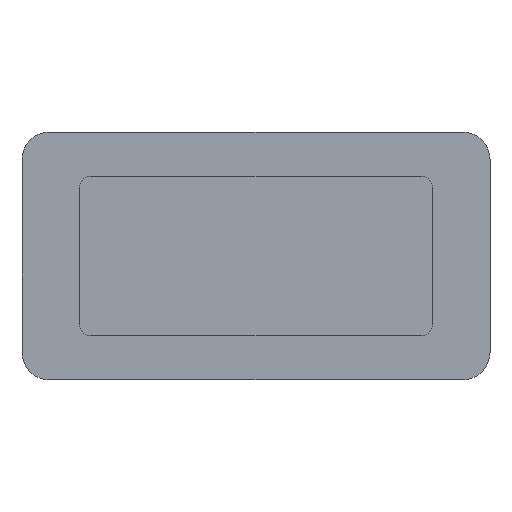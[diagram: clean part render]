
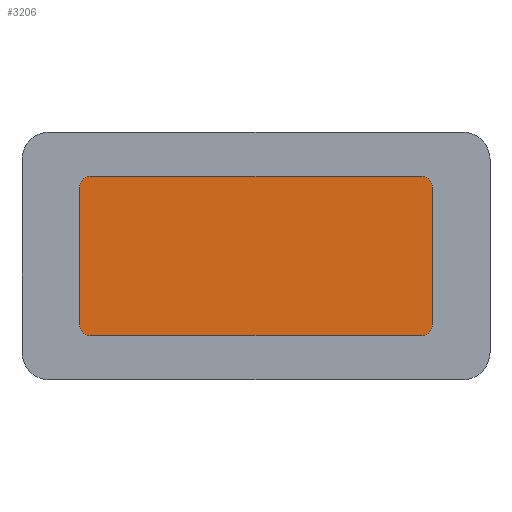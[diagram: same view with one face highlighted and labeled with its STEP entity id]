
A CAD part, top view. The second image highlights one B-rep face of the part: STEP entity #3206.
In plain terms, the highlighted planar face has unit normal (0, 0, 1).
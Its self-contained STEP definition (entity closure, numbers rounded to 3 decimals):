
#2601 = PLANE('',#2602);
#2602 = AXIS2_PLACEMENT_3D('',#2603,#2604,#2605);
#2603 = CARTESIAN_POINT('',(-13.8,-6.8,-0.1));
#2604 = DIRECTION('',(0.,1.,0.));
#2605 = DIRECTION('',(1.,0.,0.));
#2629 = CYLINDRICAL_SURFACE('',#2630,1.8);
#2630 = AXIS2_PLACEMENT_3D('',#2631,#2632,#2633);
#2631 = CARTESIAN_POINT('',(12.,-5.,-0.1));
#2632 = DIRECTION('',(0.,0.,1.));
#2633 = DIRECTION('',(0.,-1.,0.));
#2656 = PLANE('',#2657);
#2657 = AXIS2_PLACEMENT_3D('',#2658,#2659,#2660);
#2658 = CARTESIAN_POINT('',(13.8,-6.8,-0.1));
#2659 = DIRECTION('',(-1.,0.,0.));
#2660 = DIRECTION('',(0.,1.,0.));
#2684 = CYLINDRICAL_SURFACE('',#2685,1.8);
#2685 = AXIS2_PLACEMENT_3D('',#2686,#2687,#2688);
#2686 = CARTESIAN_POINT('',(12.,5.,-0.1));
#2687 = DIRECTION('',(0.,0.,1.));
#2688 = DIRECTION('',(1.,0.,-0.));
#2711 = PLANE('',#2712);
#2712 = AXIS2_PLACEMENT_3D('',#2713,#2714,#2715);
#2713 = CARTESIAN_POINT('',(13.8,6.8,-0.1));
#2714 = DIRECTION('',(0.,-1.,0.));
#2715 = DIRECTION('',(-1.,0.,0.));
#2739 = CYLINDRICAL_SURFACE('',#2740,1.8);
#2740 = AXIS2_PLACEMENT_3D('',#2741,#2742,#2743);
#2741 = CARTESIAN_POINT('',(-12.,5.,-0.1));
#2742 = DIRECTION('',(0.,0.,1.));
#2743 = DIRECTION('',(-0.,1.,0.));
#2766 = PLANE('',#2767);
#2767 = AXIS2_PLACEMENT_3D('',#2768,#2769,#2770);
#2768 = CARTESIAN_POINT('',(-13.8,6.8,-0.1));
#2769 = DIRECTION('',(1.,0.,-0.));
#2770 = DIRECTION('',(0.,-1.,0.));
#2792 = CYLINDRICAL_SURFACE('',#2793,1.8);
#2793 = AXIS2_PLACEMENT_3D('',#2794,#2795,#2796);
#2794 = CARTESIAN_POINT('',(-12.,-5.,-0.1));
#2795 = DIRECTION('',(0.,0.,1.));
#2796 = DIRECTION('',(0.,-1.,0.));
#2818 = VERTEX_POINT('',#2819);
#2819 = CARTESIAN_POINT('',(12.,-6.8,0.6));
#2840 = EDGE_CURVE('',#2818,#2841,#2843,.T.);
#2841 = VERTEX_POINT('',#2842);
#2842 = CARTESIAN_POINT('',(-12.,-6.8,0.6));
#2843 = SURFACE_CURVE('',#2844,(#2848,#2854),.PCURVE_S1.);
#2844 = LINE('',#2845,#2846);
#2845 = CARTESIAN_POINT('',(-6.9,-6.8,0.6));
#2846 = VECTOR('',#2847,1.);
#2847 = DIRECTION('',(-1.,0.,0.));
#2848 = PCURVE('',#2601,#2849);
#2849 = DEFINITIONAL_REPRESENTATION('',(#2850),#2853);
#2850 = B_SPLINE_CURVE_WITH_KNOTS('',1,(#2851,#2852),.UNSPECIFIED.,.F.,
  .F.,(2,2),(-18.9,5.1),.PIECEWISE_BEZIER_KNOTS.);
#2851 = CARTESIAN_POINT('',(25.8,-0.7));
#2852 = CARTESIAN_POINT('',(1.8,-0.7));
#2853 = ( GEOMETRIC_REPRESENTATION_CONTEXT(2) 
PARAMETRIC_REPRESENTATION_CONTEXT() REPRESENTATION_CONTEXT('2D SPACE',''
  ) );
#2854 = PCURVE('',#2855,#2860);
#2855 = PLANE('',#2856);
#2856 = AXIS2_PLACEMENT_3D('',#2857,#2858,#2859);
#2857 = CARTESIAN_POINT('',(0.,0.,0.6));
#2858 = DIRECTION('',(0.,0.,1.));
#2859 = DIRECTION('',(1.,0.,-0.));
#2860 = DEFINITIONAL_REPRESENTATION('',(#2861),#2864);
#2861 = B_SPLINE_CURVE_WITH_KNOTS('',1,(#2862,#2863),.UNSPECIFIED.,.F.,
  .F.,(2,2),(-18.9,5.1),.PIECEWISE_BEZIER_KNOTS.);
#2862 = CARTESIAN_POINT('',(12.,-6.8));
#2863 = CARTESIAN_POINT('',(-12.,-6.8));
#2864 = ( GEOMETRIC_REPRESENTATION_CONTEXT(2) 
PARAMETRIC_REPRESENTATION_CONTEXT() REPRESENTATION_CONTEXT('2D SPACE',''
  ) );
#2892 = EDGE_CURVE('',#2893,#2841,#2895,.T.);
#2893 = VERTEX_POINT('',#2894);
#2894 = CARTESIAN_POINT('',(-13.8,-5.,0.6));
#2895 = SURFACE_CURVE('',#2896,(#2901,#2908),.PCURVE_S1.);
#2896 = CIRCLE('',#2897,1.8);
#2897 = AXIS2_PLACEMENT_3D('',#2898,#2899,#2900);
#2898 = CARTESIAN_POINT('',(-12.,-5.,0.6));
#2899 = DIRECTION('',(0.,0.,1.));
#2900 = DIRECTION('',(0.,-1.,0.));
#2901 = PCURVE('',#2792,#2902);
#2902 = DEFINITIONAL_REPRESENTATION('',(#2903),#2907);
#2903 = LINE('',#2904,#2905);
#2904 = CARTESIAN_POINT('',(-6.283,0.7));
#2905 = VECTOR('',#2906,1.);
#2906 = DIRECTION('',(1.,-0.));
#2907 = ( GEOMETRIC_REPRESENTATION_CONTEXT(2) 
PARAMETRIC_REPRESENTATION_CONTEXT() REPRESENTATION_CONTEXT('2D SPACE',''
  ) );
#2908 = PCURVE('',#2855,#2909);
#2909 = DEFINITIONAL_REPRESENTATION('',(#2910),#2914);
#2910 = CIRCLE('',#2911,1.8);
#2911 = AXIS2_PLACEMENT_2D('',#2912,#2913);
#2912 = CARTESIAN_POINT('',(-12.,-5.));
#2913 = DIRECTION('',(0.,-1.));
#2914 = ( GEOMETRIC_REPRESENTATION_CONTEXT(2) 
PARAMETRIC_REPRESENTATION_CONTEXT() REPRESENTATION_CONTEXT('2D SPACE',''
  ) );
#2942 = EDGE_CURVE('',#2893,#2943,#2945,.T.);
#2943 = VERTEX_POINT('',#2944);
#2944 = CARTESIAN_POINT('',(-13.8,5.,0.6));
#2945 = SURFACE_CURVE('',#2946,(#2950,#2956),.PCURVE_S1.);
#2946 = LINE('',#2947,#2948);
#2947 = CARTESIAN_POINT('',(-13.8,3.4,0.6));
#2948 = VECTOR('',#2949,1.);
#2949 = DIRECTION('',(-0.,1.,0.));
#2950 = PCURVE('',#2766,#2951);
#2951 = DEFINITIONAL_REPRESENTATION('',(#2952),#2955);
#2952 = B_SPLINE_CURVE_WITH_KNOTS('',1,(#2953,#2954),.UNSPECIFIED.,.F.,
  .F.,(2,2),(-8.4,1.6),.PIECEWISE_BEZIER_KNOTS.);
#2953 = CARTESIAN_POINT('',(11.8,-0.7));
#2954 = CARTESIAN_POINT('',(1.8,-0.7));
#2955 = ( GEOMETRIC_REPRESENTATION_CONTEXT(2) 
PARAMETRIC_REPRESENTATION_CONTEXT() REPRESENTATION_CONTEXT('2D SPACE',''
  ) );
#2956 = PCURVE('',#2855,#2957);
#2957 = DEFINITIONAL_REPRESENTATION('',(#2958),#2961);
#2958 = B_SPLINE_CURVE_WITH_KNOTS('',1,(#2959,#2960),.UNSPECIFIED.,.F.,
  .F.,(2,2),(-8.4,1.6),.PIECEWISE_BEZIER_KNOTS.);
#2959 = CARTESIAN_POINT('',(-13.8,-5.));
#2960 = CARTESIAN_POINT('',(-13.8,5.));
#2961 = ( GEOMETRIC_REPRESENTATION_CONTEXT(2) 
PARAMETRIC_REPRESENTATION_CONTEXT() REPRESENTATION_CONTEXT('2D SPACE',''
  ) );
#2989 = VERTEX_POINT('',#2990);
#2990 = CARTESIAN_POINT('',(-12.,6.8,0.6));
#3011 = EDGE_CURVE('',#2989,#2943,#3012,.T.);
#3012 = SURFACE_CURVE('',#3013,(#3018,#3025),.PCURVE_S1.);
#3013 = CIRCLE('',#3014,1.8);
#3014 = AXIS2_PLACEMENT_3D('',#3015,#3016,#3017);
#3015 = CARTESIAN_POINT('',(-12.,5.,0.6));
#3016 = DIRECTION('',(0.,0.,1.));
#3017 = DIRECTION('',(-0.,1.,0.));
#3018 = PCURVE('',#2739,#3019);
#3019 = DEFINITIONAL_REPRESENTATION('',(#3020),#3024);
#3020 = LINE('',#3021,#3022);
#3021 = CARTESIAN_POINT('',(0.,0.7));
#3022 = VECTOR('',#3023,1.);
#3023 = DIRECTION('',(1.,0.));
#3024 = ( GEOMETRIC_REPRESENTATION_CONTEXT(2) 
PARAMETRIC_REPRESENTATION_CONTEXT() REPRESENTATION_CONTEXT('2D SPACE',''
  ) );
#3025 = PCURVE('',#2855,#3026);
#3026 = DEFINITIONAL_REPRESENTATION('',(#3027),#3031);
#3027 = CIRCLE('',#3028,1.8);
#3028 = AXIS2_PLACEMENT_2D('',#3029,#3030);
#3029 = CARTESIAN_POINT('',(-12.,5.));
#3030 = DIRECTION('',(0.,1.));
#3031 = ( GEOMETRIC_REPRESENTATION_CONTEXT(2) 
PARAMETRIC_REPRESENTATION_CONTEXT() REPRESENTATION_CONTEXT('2D SPACE',''
  ) );
#3039 = EDGE_CURVE('',#2989,#3040,#3042,.T.);
#3040 = VERTEX_POINT('',#3041);
#3041 = CARTESIAN_POINT('',(12.,6.8,0.6));
#3042 = SURFACE_CURVE('',#3043,(#3047,#3053),.PCURVE_S1.);
#3043 = LINE('',#3044,#3045);
#3044 = CARTESIAN_POINT('',(6.9,6.8,0.6));
#3045 = VECTOR('',#3046,1.);
#3046 = DIRECTION('',(1.,0.,-0.));
#3047 = PCURVE('',#2711,#3048);
#3048 = DEFINITIONAL_REPRESENTATION('',(#3049),#3052);
#3049 = B_SPLINE_CURVE_WITH_KNOTS('',1,(#3050,#3051),.UNSPECIFIED.,.F.,
  .F.,(2,2),(-18.9,5.1),.PIECEWISE_BEZIER_KNOTS.);
#3050 = CARTESIAN_POINT('',(25.8,-0.7));
#3051 = CARTESIAN_POINT('',(1.8,-0.7));
#3052 = ( GEOMETRIC_REPRESENTATION_CONTEXT(2) 
PARAMETRIC_REPRESENTATION_CONTEXT() REPRESENTATION_CONTEXT('2D SPACE',''
  ) );
#3053 = PCURVE('',#2855,#3054);
#3054 = DEFINITIONAL_REPRESENTATION('',(#3055),#3058);
#3055 = B_SPLINE_CURVE_WITH_KNOTS('',1,(#3056,#3057),.UNSPECIFIED.,.F.,
  .F.,(2,2),(-18.9,5.1),.PIECEWISE_BEZIER_KNOTS.);
#3056 = CARTESIAN_POINT('',(-12.,6.8));
#3057 = CARTESIAN_POINT('',(12.,6.8));
#3058 = ( GEOMETRIC_REPRESENTATION_CONTEXT(2) 
PARAMETRIC_REPRESENTATION_CONTEXT() REPRESENTATION_CONTEXT('2D SPACE',''
  ) );
#3086 = VERTEX_POINT('',#3087);
#3087 = CARTESIAN_POINT('',(13.8,5.,0.6));
#3108 = EDGE_CURVE('',#3086,#3040,#3109,.T.);
#3109 = SURFACE_CURVE('',#3110,(#3115,#3122),.PCURVE_S1.);
#3110 = CIRCLE('',#3111,1.8);
#3111 = AXIS2_PLACEMENT_3D('',#3112,#3113,#3114);
#3112 = CARTESIAN_POINT('',(12.,5.,0.6));
#3113 = DIRECTION('',(0.,0.,1.));
#3114 = DIRECTION('',(1.,0.,-0.));
#3115 = PCURVE('',#2684,#3116);
#3116 = DEFINITIONAL_REPRESENTATION('',(#3117),#3121);
#3117 = LINE('',#3118,#3119);
#3118 = CARTESIAN_POINT('',(0.,0.7));
#3119 = VECTOR('',#3120,1.);
#3120 = DIRECTION('',(1.,0.));
#3121 = ( GEOMETRIC_REPRESENTATION_CONTEXT(2) 
PARAMETRIC_REPRESENTATION_CONTEXT() REPRESENTATION_CONTEXT('2D SPACE',''
  ) );
#3122 = PCURVE('',#2855,#3123);
#3123 = DEFINITIONAL_REPRESENTATION('',(#3124),#3128);
#3124 = CIRCLE('',#3125,1.8);
#3125 = AXIS2_PLACEMENT_2D('',#3126,#3127);
#3126 = CARTESIAN_POINT('',(12.,5.));
#3127 = DIRECTION('',(1.,0.));
#3128 = ( GEOMETRIC_REPRESENTATION_CONTEXT(2) 
PARAMETRIC_REPRESENTATION_CONTEXT() REPRESENTATION_CONTEXT('2D SPACE',''
  ) );
#3136 = EDGE_CURVE('',#3086,#3137,#3139,.T.);
#3137 = VERTEX_POINT('',#3138);
#3138 = CARTESIAN_POINT('',(13.8,-5.,0.6));
#3139 = SURFACE_CURVE('',#3140,(#3144,#3150),.PCURVE_S1.);
#3140 = LINE('',#3141,#3142);
#3141 = CARTESIAN_POINT('',(13.8,-3.4,0.6));
#3142 = VECTOR('',#3143,1.);
#3143 = DIRECTION('',(0.,-1.,0.));
#3144 = PCURVE('',#2656,#3145);
#3145 = DEFINITIONAL_REPRESENTATION('',(#3146),#3149);
#3146 = B_SPLINE_CURVE_WITH_KNOTS('',1,(#3147,#3148),.UNSPECIFIED.,.F.,
  .F.,(2,2),(-8.4,1.6),.PIECEWISE_BEZIER_KNOTS.);
#3147 = CARTESIAN_POINT('',(11.8,-0.7));
#3148 = CARTESIAN_POINT('',(1.8,-0.7));
#3149 = ( GEOMETRIC_REPRESENTATION_CONTEXT(2) 
PARAMETRIC_REPRESENTATION_CONTEXT() REPRESENTATION_CONTEXT('2D SPACE',''
  ) );
#3150 = PCURVE('',#2855,#3151);
#3151 = DEFINITIONAL_REPRESENTATION('',(#3152),#3155);
#3152 = B_SPLINE_CURVE_WITH_KNOTS('',1,(#3153,#3154),.UNSPECIFIED.,.F.,
  .F.,(2,2),(-8.4,1.6),.PIECEWISE_BEZIER_KNOTS.);
#3153 = CARTESIAN_POINT('',(13.8,5.));
#3154 = CARTESIAN_POINT('',(13.8,-5.));
#3155 = ( GEOMETRIC_REPRESENTATION_CONTEXT(2) 
PARAMETRIC_REPRESENTATION_CONTEXT() REPRESENTATION_CONTEXT('2D SPACE',''
  ) );
#3183 = EDGE_CURVE('',#2818,#3137,#3184,.T.);
#3184 = SURFACE_CURVE('',#3185,(#3190,#3197),.PCURVE_S1.);
#3185 = CIRCLE('',#3186,1.8);
#3186 = AXIS2_PLACEMENT_3D('',#3187,#3188,#3189);
#3187 = CARTESIAN_POINT('',(12.,-5.,0.6));
#3188 = DIRECTION('',(0.,0.,1.));
#3189 = DIRECTION('',(0.,-1.,0.));
#3190 = PCURVE('',#2629,#3191);
#3191 = DEFINITIONAL_REPRESENTATION('',(#3192),#3196);
#3192 = LINE('',#3193,#3194);
#3193 = CARTESIAN_POINT('',(0.,0.7));
#3194 = VECTOR('',#3195,1.);
#3195 = DIRECTION('',(1.,0.));
#3196 = ( GEOMETRIC_REPRESENTATION_CONTEXT(2) 
PARAMETRIC_REPRESENTATION_CONTEXT() REPRESENTATION_CONTEXT('2D SPACE',''
  ) );
#3197 = PCURVE('',#2855,#3198);
#3198 = DEFINITIONAL_REPRESENTATION('',(#3199),#3203);
#3199 = CIRCLE('',#3200,1.8);
#3200 = AXIS2_PLACEMENT_2D('',#3201,#3202);
#3201 = CARTESIAN_POINT('',(12.,-5.));
#3202 = DIRECTION('',(0.,-1.));
#3203 = ( GEOMETRIC_REPRESENTATION_CONTEXT(2) 
PARAMETRIC_REPRESENTATION_CONTEXT() REPRESENTATION_CONTEXT('2D SPACE',''
  ) );
#3206 = ADVANCED_FACE('',(#3207),#2855,.T.);
#3207 = FACE_BOUND('',#3208,.T.);
#3208 = EDGE_LOOP('',(#3209,#3210,#3211,#3212,#3213,#3214,#3215,#3216));
#3209 = ORIENTED_EDGE('',*,*,#2840,.F.);
#3210 = ORIENTED_EDGE('',*,*,#3183,.T.);
#3211 = ORIENTED_EDGE('',*,*,#3136,.F.);
#3212 = ORIENTED_EDGE('',*,*,#3108,.T.);
#3213 = ORIENTED_EDGE('',*,*,#3039,.F.);
#3214 = ORIENTED_EDGE('',*,*,#3011,.T.);
#3215 = ORIENTED_EDGE('',*,*,#2942,.F.);
#3216 = ORIENTED_EDGE('',*,*,#2892,.T.);
